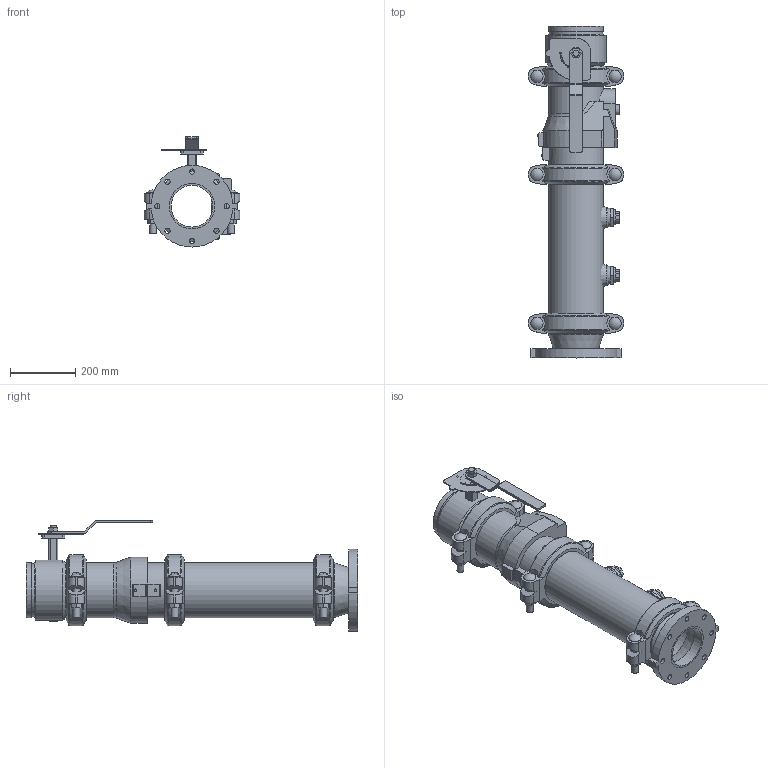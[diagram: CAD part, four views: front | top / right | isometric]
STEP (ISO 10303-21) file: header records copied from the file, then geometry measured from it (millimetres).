
FILE_DESCRIPTION(/* description */ ('VIC DVI PUMP DROP VERT S/390 (OGSxFLG)','CAx-IF Rec.Pracs.---Representation and Presentation of Product Manufacturing Information (PMI)---4.0---2014-10-13'),/* implementation_level */ '2;1');
FILE_NAME(/* name */ 'C:\Users\Vjadhav\AppData\Roaming\Autodesk\ApplicationPlugins\Back Up\Victaulic_IPS_Vertical DVI_PN10_Series 390 (OGSxFLG)\Victaulic_IPS_Vertical DVI_PN10_Series 390 (OGSxFLG)_06.0x05.0 (139.7) (150x125).stp',/* time_stamp */ '2020-11-09T17:51:19+05:00',/* author */ ('Vjadhav'),/* organization */ ('Victaulic'),/* preprocessor_version */ 'ST-DEVELOPER v17.2',/* originating_system */ 'Autodesk Inventor 2019',/* authorisation */ '');
FILE_SCHEMA (('AP242_MANAGED_MODEL_BASED_3D_ENGINEERING_MIM_LF { 1 0 10303 442 1 1 4 }'));
Length unit declared in the file: inch
Products named in the file (8): 390-06.0x05.0 (139.7); 741-05.0 (139.7); 050-06.0x05.0 (139.7); Pipe-06.0; 177N-06.0; 761-06.0; 716-06.0; 923-04.0x0.75
Assembly tree (10 placements, depth 2):
  390-06.0x05.0 (139.7)
    741-05.0 (139.7)
    050-06.0x05.0 (139.7)
    177N-06.0  x3
    Pipe-06.0
    761-06.0
    716-06.0
    923-04.0x0.75  x2
Bounding box: 292.61 x 1019.05 x 338.33 mm (x, y, z)
Volume: 10595179.3 mm3; surface area: 1819085.9 mm2
Topology: 10 solids, 11 shells, 611 faces, 1611 edges, 1076 vertices
Faces by surface type: plane 358, cylinder 208, cone 20, torus 17, sphere 6, bspline 2
Full cylindrical faces by diameter (mm): 4.826 x10, 7.62 x2, 8.636 x4, 16.002 x8, 19.05 x2, 21.209 x6, 22.86 x1, 26.67 x2, 30.48 x1, 37.694 x6, 45.974 x4, 55.118 x1, 55.626 x2, 128.194 x1, 135.484 x1, 139.7 x3, 154.051 x3, 155.575 x3, 157.15 x1, 163.957 x7, 168.275 x19, 185.42 x1
Entity records: 12549 total; most frequent: CARTESIAN_POINT 2398, DIRECTION 2085, ORIENTED_EDGE 1910, EDGE_CURVE 955, AXIS2_PLACEMENT_3D 785, VERTEX_POINT 644, LINE 515, VECTOR 515
